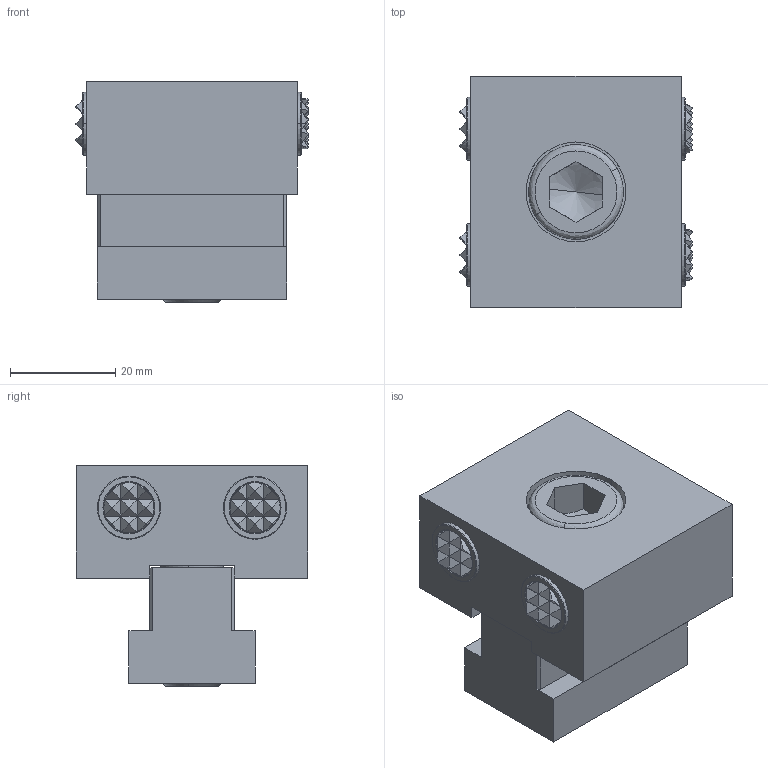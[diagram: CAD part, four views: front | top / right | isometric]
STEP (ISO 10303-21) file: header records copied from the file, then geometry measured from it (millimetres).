
FILE_DESCRIPTION (( 'STEP AP203' ), '1' );
FILE_NAME ('mr-s-s.STEP', '2021-10-26T02:18:15', ( '' ), ( '' ), 'SwSTEP 2.0', 'SolidWorks 2020', '' );
FILE_SCHEMA (( 'CONFIG_CONTROL_DESIGN' ));
Length unit declared in the file: millimetre
Products named in the file (1): mr-s-s
Bounding box: 44.2 x 44 x 42 mm (x, y, z)
Volume: 51227.1 mm3; surface area: 12972.8 mm2
Topology: 1 solids, 1 shells, 275 faces, 680 edges, 419 vertices
Faces by surface type: plane 221, cylinder 32, cone 20, bspline 2
Entity records: 8043 total; most frequent: CARTESIAN_POINT 1821, ORIENTED_EDGE 1356, DIRECTION 1176, EDGE_CURVE 678, VECTOR 468, LINE 468, VERTEX_POINT 419, AXIS2_PLACEMENT_3D 354
